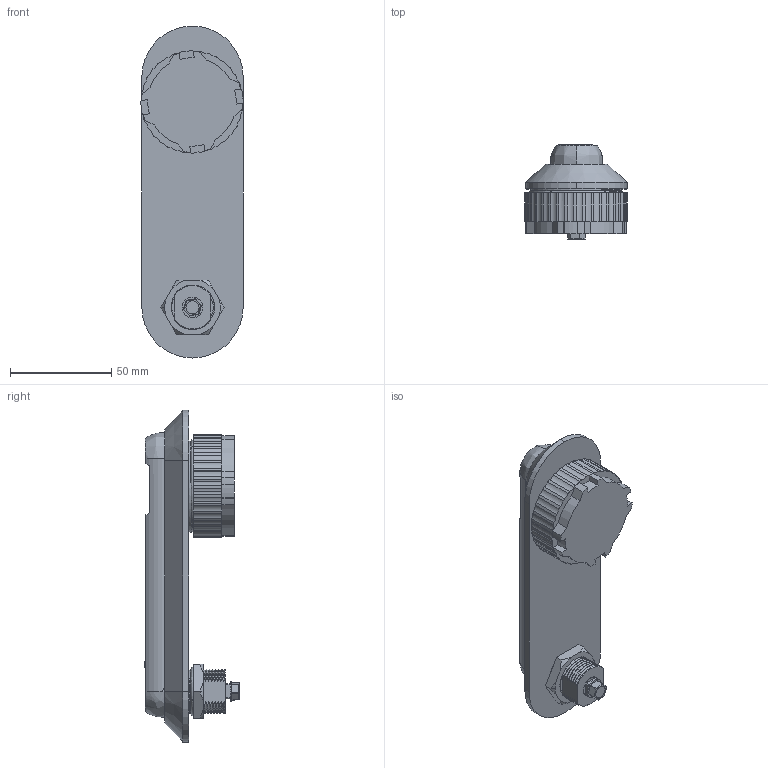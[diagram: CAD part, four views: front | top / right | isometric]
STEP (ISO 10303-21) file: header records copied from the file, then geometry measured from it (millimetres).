
FILE_DESCRIPTION (( 'STEP AP214' ), '1' );
FILE_NAME ('1B.RS100-T.001.STEP', '2011-10-03T10:12:47', ( 'Techniczny' ), ( 'RST ROZTOCZE' ), 'SwSTEP 2.0', 'SolidWorks 2010', '' );
FILE_SCHEMA (( 'AUTOMOTIVE_DESIGN' ));
Length unit declared in the file: millimetre
Products named in the file (12): 1C.NZN.001.01; M6x8; NAKRETKA M22; O-RING 22x2; O-RING12X2; O-RING 45 x 2; 1B.RS100-T.001.01; 1B.RS100-T.001; 1B.RS400.002.02.02; 1B.RS100.001.04; 1B.RS100.001.03; 1B.RS100.001.02
Assembly tree (11 placements, depth 2):
  1B.RS100-T.001
    1B.RS400.002.02.02
    M6x8
    NAKRETKA M22
    1B.RS100.001.04
    O-RING 45 x 2
    1C.NZN.001.01
    1B.RS100-T.001.01
    O-RING12X2
    1B.RS100.001.03
    O-RING 22x2
    1B.RS100.001.02
Bounding box: 50.5 x 46.81 x 164 mm (x, y, z)
Volume: 102947.3 mm3; surface area: 55348.7 mm2
Topology: 11 solids, 11 shells, 467 faces, 1254 edges, 813 vertices
Faces by surface type: cylinder 234, plane 132, bspline 65, cone 27, torus 8, sphere 1
Entity records: 21068 total; most frequent: CARTESIAN_POINT 9395, ORIENTED_EDGE 2502, DIRECTION 2252, EDGE_CURVE 1251, AXIS2_PLACEMENT_3D 882, VERTEX_POINT 813, EDGE_LOOP 492, VECTOR 488
